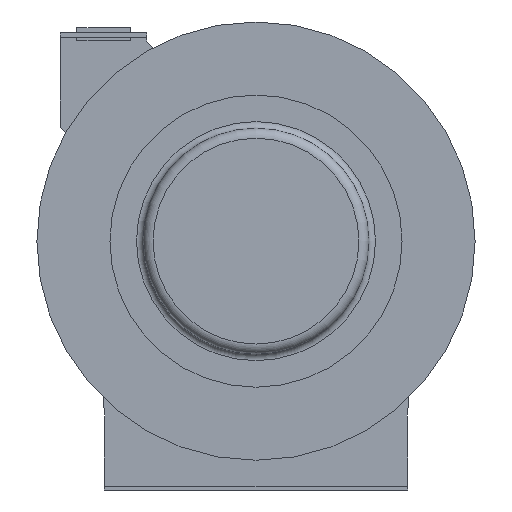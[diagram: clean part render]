
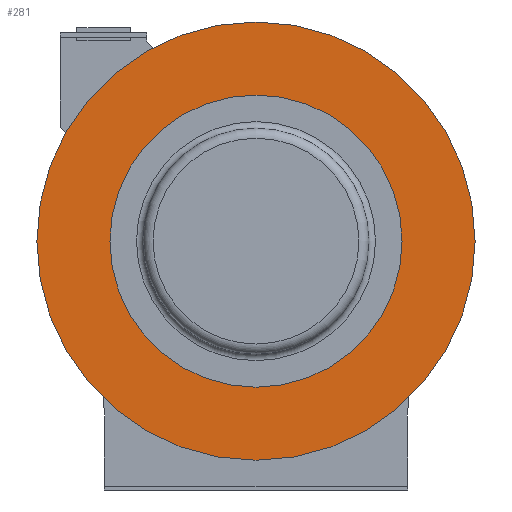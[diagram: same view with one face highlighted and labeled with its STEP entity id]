
A CAD part, front view. The second image highlights one B-rep face of the part: STEP entity #281.
In plain terms, the highlighted planar face has unit normal (0, -1, 0).
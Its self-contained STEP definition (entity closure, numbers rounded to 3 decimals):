
#281 = ADVANCED_FACE( '', ( #619, #620 ), #621, .F. );
#619 = FACE_BOUND( '', #987, .T. );
#620 = FACE_OUTER_BOUND( '', #988, .T. );
#621 = PLANE( '', #989 );
#987 = EDGE_LOOP( '', ( #1709 ) );
#988 = EDGE_LOOP( '', ( #1710 ) );
#989 = AXIS2_PLACEMENT_3D( '', #1711, #1712, #1713 );
#1709 = ORIENTED_EDGE( '', *, *, #1939, .T. );
#1710 = ORIENTED_EDGE( '', *, *, #2045, .T. );
#1711 = CARTESIAN_POINT( '', ( 0., -135.857, 209.55 ) );
#1712 = DIRECTION( '', ( 0., 1., 0. ) );
#1713 = DIRECTION( '', ( 0., 0., 1. ) );
#1939 = EDGE_CURVE( '', #2275, #2275, #2276, .T. );
#2045 = EDGE_CURVE( '', #2451, #2451, #2452, .T. );
#2275 = VERTEX_POINT( '', #2755 );
#2276 = CIRCLE( '', #2756, 139.7 );
#2451 = VERTEX_POINT( '', #3042 );
#2452 = CIRCLE( '', #3043, 209.55 );
#2755 = CARTESIAN_POINT( '', ( 139.7, -135.857, 0. ) );
#2756 = AXIS2_PLACEMENT_3D( '', #3381, #3382, #3383 );
#3042 = CARTESIAN_POINT( '', ( 0., -135.857, -209.55 ) );
#3043 = AXIS2_PLACEMENT_3D( '', #3503, #3504, #3505 );
#3381 = CARTESIAN_POINT( '', ( 0., -135.857, 0. ) );
#3382 = DIRECTION( '', ( 0., 1., 0. ) );
#3383 = DIRECTION( '', ( 1., 0., 0. ) );
#3503 = CARTESIAN_POINT( '', ( 0., -135.857, 0. ) );
#3504 = DIRECTION( '', ( 0., -1., 0. ) );
#3505 = DIRECTION( '', ( 0., 0., -1. ) );
